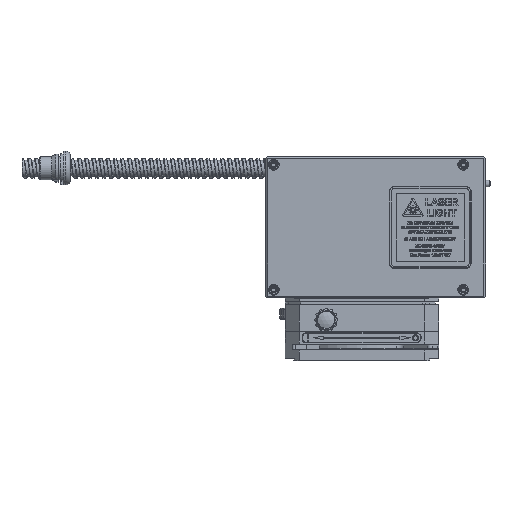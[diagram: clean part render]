
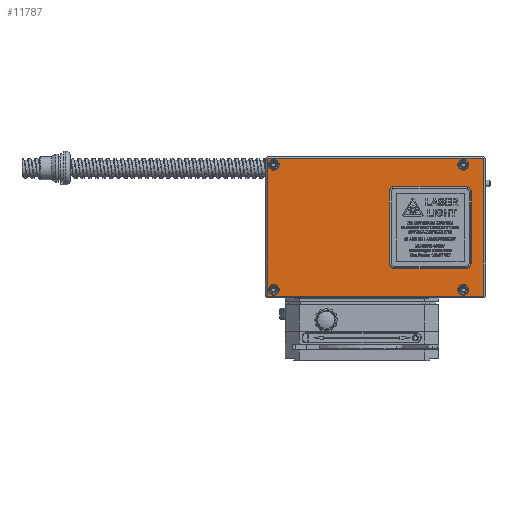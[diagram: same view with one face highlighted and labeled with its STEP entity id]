
A CAD part, left-side view. The second image highlights one B-rep face of the part: STEP entity #11787.
In plain terms, the highlighted planar face has unit normal (-1, 0, 0).
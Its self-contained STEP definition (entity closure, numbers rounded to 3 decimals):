
#11787=ADVANCED_FACE('',(#14233,#14234,#14235,#14236,#14237,#14238),#13304,
 .T.);
#13304=PLANE('',#50231);
#14233=FACE_BOUND('',#15336,.T.);
#14234=FACE_BOUND('',#15337,.T.);
#14235=FACE_BOUND('',#15338,.T.);
#14236=FACE_BOUND('',#15339,.T.);
#14237=FACE_BOUND('',#15340,.T.);
#14238=FACE_BOUND('',#15341,.T.);
#15336=EDGE_LOOP('',(#18370,#18371,#18372,#18373,#18374,#18375,#18376,#18377));
#15337=EDGE_LOOP('',(#18378));
#15338=EDGE_LOOP('',(#18379));
#15339=EDGE_LOOP('',(#18380));
#15340=EDGE_LOOP('',(#18381));
#15341=EDGE_LOOP('',(#18382,#18383,#18384,#18385));
#18370=ORIENTED_EDGE('',*,*,#35412,.F.);
#18371=ORIENTED_EDGE('',*,*,#35413,.F.);
#18372=ORIENTED_EDGE('',*,*,#35414,.F.);
#18373=ORIENTED_EDGE('',*,*,#35415,.F.);
#18374=ORIENTED_EDGE('',*,*,#35416,.F.);
#18375=ORIENTED_EDGE('',*,*,#35417,.F.);
#18376=ORIENTED_EDGE('',*,*,#35418,.F.);
#18377=ORIENTED_EDGE('',*,*,#35419,.F.);
#18378=ORIENTED_EDGE('',*,*,#35420,.T.);
#18379=ORIENTED_EDGE('',*,*,#35421,.T.);
#18380=ORIENTED_EDGE('',*,*,#35422,.T.);
#18381=ORIENTED_EDGE('',*,*,#35423,.T.);
#18382=ORIENTED_EDGE('',*,*,#35407,.T.);
#18383=ORIENTED_EDGE('',*,*,#35405,.T.);
#18384=ORIENTED_EDGE('',*,*,#35411,.T.);
#18385=ORIENTED_EDGE('',*,*,#35409,.T.);
#30099=VERTEX_POINT('',#64762);
#30100=VERTEX_POINT('',#64764);
#30101=VERTEX_POINT('',#64768);
#30102=VERTEX_POINT('',#64772);
#30103=VERTEX_POINT('',#64778);
#30104=VERTEX_POINT('',#64779);
#30105=VERTEX_POINT('',#64781);
#30106=VERTEX_POINT('',#64783);
#30107=VERTEX_POINT('',#64785);
#30108=VERTEX_POINT('',#64787);
#30109=VERTEX_POINT('',#64789);
#30110=VERTEX_POINT('',#64791);
#30111=VERTEX_POINT('',#64794);
#30112=VERTEX_POINT('',#64796);
#30113=VERTEX_POINT('',#64798);
#30114=VERTEX_POINT('',#64800);
#35405=EDGE_CURVE('',#30100,#30099,#43730,.T.);
#35407=EDGE_CURVE('',#30101,#30100,#43732,.T.);
#35409=EDGE_CURVE('',#30102,#30101,#43734,.T.);
#35411=EDGE_CURVE('',#30099,#30102,#43736,.T.);
#35412=EDGE_CURVE('',#30103,#30104,#43737,.T.);
#35413=EDGE_CURVE('',#30105,#30103,#41100,.T.);
#35414=EDGE_CURVE('',#30106,#30105,#43738,.T.);
#35415=EDGE_CURVE('',#30107,#30106,#41101,.T.);
#35416=EDGE_CURVE('',#30108,#30107,#43739,.T.);
#35417=EDGE_CURVE('',#30109,#30108,#41102,.T.);
#35418=EDGE_CURVE('',#30110,#30109,#43740,.T.);
#35419=EDGE_CURVE('',#30104,#30110,#41103,.T.);
#35420=EDGE_CURVE('',#30111,#30111,#41104,.T.);
#35421=EDGE_CURVE('',#30112,#30112,#41105,.T.);
#35422=EDGE_CURVE('',#30113,#30113,#41106,.T.);
#35423=EDGE_CURVE('',#30114,#30114,#41107,.T.);
#41100=CIRCLE('',#50223,3.15);
#41101=CIRCLE('',#50224,3.15);
#41102=CIRCLE('',#50225,3.15);
#41103=CIRCLE('',#50226,3.15);
#41104=CIRCLE('',#50227,3.);
#41105=CIRCLE('',#50228,3.);
#41106=CIRCLE('',#50229,3.);
#41107=CIRCLE('',#50230,3.);
#43730=LINE('',#64763,#46941);
#43732=LINE('',#64767,#46943);
#43734=LINE('',#64771,#46945);
#43736=LINE('',#64775,#46947);
#43737=LINE('',#64777,#46948);
#43738=LINE('',#64782,#46949);
#43739=LINE('',#64786,#46950);
#43740=LINE('',#64790,#46951);
#46941=VECTOR('',#52973,1.);
#46943=VECTOR('',#52977,1.);
#46945=VECTOR('',#52981,1.);
#46947=VECTOR('',#52985,1.);
#46948=VECTOR('',#52988,1.);
#46949=VECTOR('',#52991,1.);
#46950=VECTOR('',#52994,1.);
#46951=VECTOR('',#52997,1.);
#50223=AXIS2_PLACEMENT_3D('',#64780,#52989,#52990);
#50224=AXIS2_PLACEMENT_3D('',#64784,#52992,#52993);
#50225=AXIS2_PLACEMENT_3D('',#64788,#52995,#52996);
#50226=AXIS2_PLACEMENT_3D('',#64792,#52998,#52999);
#50227=AXIS2_PLACEMENT_3D('',#64793,#53000,#53001);
#50228=AXIS2_PLACEMENT_3D('',#64795,#53002,#53003);
#50229=AXIS2_PLACEMENT_3D('',#64797,#53004,#53005);
#50230=AXIS2_PLACEMENT_3D('',#64799,#53006,#53007);
#50231=AXIS2_PLACEMENT_3D('',#64801,#53008,#53009);
#52973=DIRECTION('',(0.,-1.,0.));
#52977=DIRECTION('',(0.,0.,-1.));
#52981=DIRECTION('',(0.,1.,0.));
#52985=DIRECTION('',(0.,0.,1.));
#52988=DIRECTION('',(0.,-1.,0.));
#52989=DIRECTION('',(-1.,0.,0.));
#52990=DIRECTION('',(0.,1.,0.));
#52991=DIRECTION('',(0.,0.,-1.));
#52992=DIRECTION('',(-1.,0.,0.));
#52993=DIRECTION('',(0.,1.,0.));
#52994=DIRECTION('',(0.,1.,0.));
#52995=DIRECTION('',(-1.,0.,0.));
#52996=DIRECTION('',(0.,1.,0.));
#52997=DIRECTION('',(0.,0.,1.));
#52998=DIRECTION('',(-1.,0.,0.));
#52999=DIRECTION('',(0.,1.,0.));
#53000=DIRECTION('',(1.,0.,0.));
#53001=DIRECTION('',(0.,1.,0.));
#53002=DIRECTION('',(1.,0.,0.));
#53003=DIRECTION('',(0.,1.,0.));
#53004=DIRECTION('',(1.,0.,0.));
#53005=DIRECTION('',(0.,1.,0.));
#53006=DIRECTION('',(1.,0.,0.));
#53007=DIRECTION('',(0.,1.,0.));
#53008=DIRECTION('',(-1.,0.,0.));
#53009=DIRECTION('',(0.,1.,0.));
#64762=CARTESIAN_POINT('',(-17.894,-47.359,-13.825));
#64763=CARTESIAN_POINT('',(-17.894,13.141,-13.825));
#64764=CARTESIAN_POINT('',(-17.894,73.641,-13.825));
#64767=CARTESIAN_POINT('',(-17.894,73.641,24.675));
#64768=CARTESIAN_POINT('',(-17.894,73.641,63.175));
#64771=CARTESIAN_POINT('',(-17.894,13.141,63.175));
#64772=CARTESIAN_POINT('',(-17.894,-47.359,63.175));
#64775=CARTESIAN_POINT('',(-17.894,-47.359,24.675));
#64777=CARTESIAN_POINT('',(-17.894,2.491,1.675));
#64778=CARTESIAN_POINT('',(-17.894,2.491,1.675));
#64779=CARTESIAN_POINT('',(-17.894,-37.209,1.675));
#64780=CARTESIAN_POINT('',(-17.894,2.491,4.825));
#64781=CARTESIAN_POINT('',(-17.894,5.641,4.825));
#64782=CARTESIAN_POINT('',(-17.894,5.641,44.525));
#64783=CARTESIAN_POINT('',(-17.894,5.641,44.525));
#64784=CARTESIAN_POINT('',(-17.894,2.491,44.525));
#64785=CARTESIAN_POINT('',(-17.894,2.491,47.675));
#64786=CARTESIAN_POINT('',(-17.894,-37.209,47.675));
#64787=CARTESIAN_POINT('',(-17.894,-37.209,47.675));
#64788=CARTESIAN_POINT('',(-17.894,-37.209,44.525));
#64789=CARTESIAN_POINT('',(-17.894,-40.359,44.525));
#64790=CARTESIAN_POINT('',(-17.894,-40.359,4.825));
#64791=CARTESIAN_POINT('',(-17.894,-40.359,4.825));
#64792=CARTESIAN_POINT('',(-17.894,-37.209,4.825));
#64793=CARTESIAN_POINT('',(-17.894,-35.859,-10.325));
#64794=CARTESIAN_POINT('',(-17.894,-32.859,-10.325));
#64795=CARTESIAN_POINT('',(-17.894,-35.859,59.675));
#64796=CARTESIAN_POINT('',(-17.894,-32.859,59.675));
#64797=CARTESIAN_POINT('',(-17.894,70.141,-10.325));
#64798=CARTESIAN_POINT('',(-17.894,73.141,-10.325));
#64799=CARTESIAN_POINT('',(-17.894,70.141,59.675));
#64800=CARTESIAN_POINT('',(-17.894,73.141,59.675));
#64801=CARTESIAN_POINT('',(-17.894,13.141,24.675));
